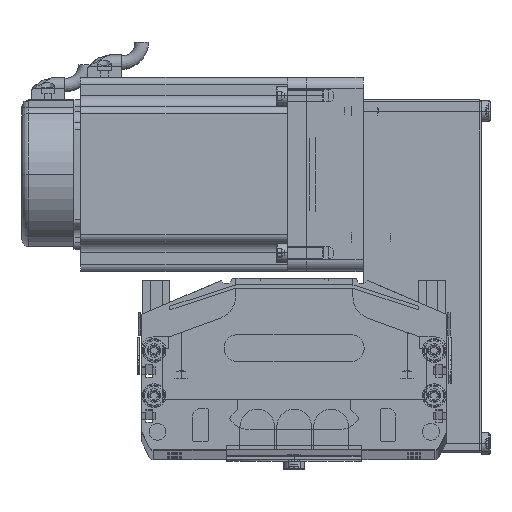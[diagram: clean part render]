
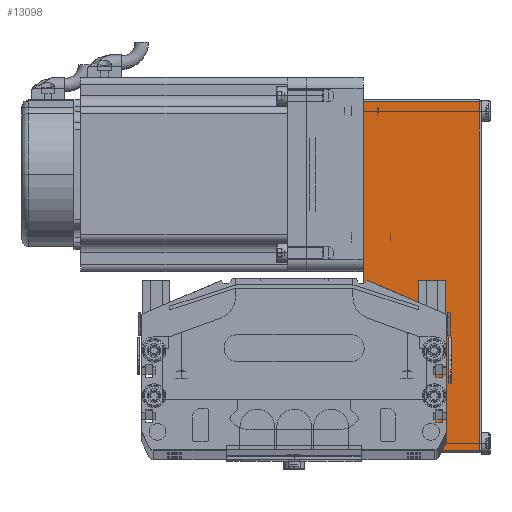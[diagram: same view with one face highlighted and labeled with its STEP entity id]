
A CAD part, top view. The second image highlights one B-rep face of the part: STEP entity #13098.
In plain terms, the highlighted planar face has unit normal (0, 0, 1) as drawn and (0, -1, 0) by its records, which use the part's own axes.
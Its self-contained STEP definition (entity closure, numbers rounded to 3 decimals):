
#13004 = EDGE_CURVE ( 'NONE', #13116, #13017, #47481, .T. ) ;
#13008 = VERTEX_POINT ( 'NONE', #47486 ) ;
#13017 = VERTEX_POINT ( 'NONE', #47497 ) ;
#13061 = EDGE_CURVE ( 'NONE', #13008, #13116, #47553, .T. ) ;
#13095 = EDGE_CURVE ( 'NONE', #15726, #13008, #47447, .T. ) ;
#13098 = ADVANCED_FACE ( 'NONE', ( #47448 ), #47458, .F. ) ;
#13099 = ORIENTED_EDGE ( 'NONE', *, *, #15733, .T. ) ;
#13100 = ORIENTED_EDGE ( 'NONE', *, *, #13004, .T. ) ;
#13116 = VERTEX_POINT ( 'NONE', #47708 ) ;
#13151 = EDGE_LOOP ( 'NONE', ( #13099, #13199, #13191, #13100 ) ) ;
#13191 = ORIENTED_EDGE ( 'NONE', *, *, #13061, .T. ) ;
#13199 = ORIENTED_EDGE ( 'NONE', *, *, #13095, .T. ) ;
#15726 = VERTEX_POINT ( 'NONE', #54881 ) ;
#15733 = EDGE_CURVE ( 'NONE', #13017, #15726, #54817, .T. ) ;
#47345 = CARTESIAN_POINT ( 'NONE',  ( 32., -40., 52.5 ) ) ;
#47414 = CARTESIAN_POINT ( 'NONE',  ( -123.2, -40., 52.5 ) ) ;
#47439 = DIRECTION ( 'NONE',  ( -1., 0., 0. ) ) ;
#47440 = DIRECTION ( 'NONE',  ( 0., 1., 0. ) ) ;
#47443 = AXIS2_PLACEMENT_3D ( 'NONE', #47345, #47440, #47439 ) ;
#47444 = DIRECTION ( 'NONE',  ( 0., 0., 1. ) ) ;
#47445 = VECTOR ( 'NONE', #47444, 1000. ) ;
#47446 = CARTESIAN_POINT ( 'NONE',  ( 31., -40., 52.5 ) ) ;
#47447 = LINE ( 'NONE', #47446, #47445 ) ;
#47448 = FACE_OUTER_BOUND ( 'NONE', #13151, .T. ) ;
#47458 = PLANE ( 'NONE',  #47443 ) ;
#47474 = DIRECTION ( 'NONE',  ( 0., 0., -1. ) ) ;
#47475 = VECTOR ( 'NONE', #47474, 1000. ) ;
#47481 = LINE ( 'NONE', #47414, #47475 ) ;
#47486 = CARTESIAN_POINT ( 'NONE',  ( 31., -40., 51.5 ) ) ;
#47497 = CARTESIAN_POINT ( 'NONE',  ( -123.2, -40., 0. ) ) ;
#47550 = DIRECTION ( 'NONE',  ( -1., 0., 0. ) ) ;
#47551 = VECTOR ( 'NONE', #47550, 1000. ) ;
#47552 = CARTESIAN_POINT ( 'NONE',  ( 32., -40., 51.5 ) ) ;
#47553 = LINE ( 'NONE', #47552, #47551 ) ;
#47708 = CARTESIAN_POINT ( 'NONE',  ( -123.2, -40., 51.5 ) ) ;
#54806 = DIRECTION ( 'NONE',  ( 1., 0., 0. ) ) ;
#54807 = VECTOR ( 'NONE', #54806, 1000. ) ;
#54816 = CARTESIAN_POINT ( 'NONE',  ( 32., -40., 0. ) ) ;
#54817 = LINE ( 'NONE', #54816, #54807 ) ;
#54881 = CARTESIAN_POINT ( 'NONE',  ( 31., -40., 0. ) ) ;
